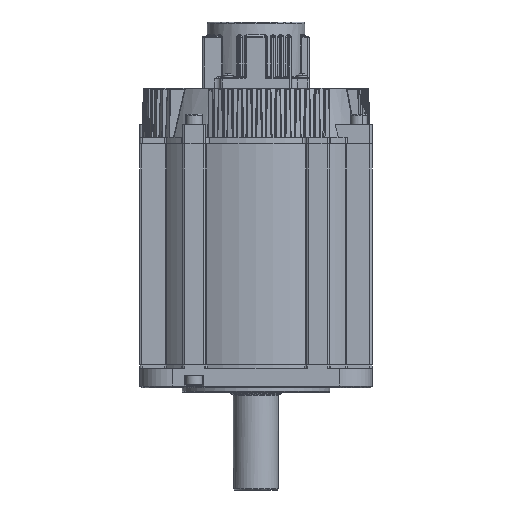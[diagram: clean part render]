
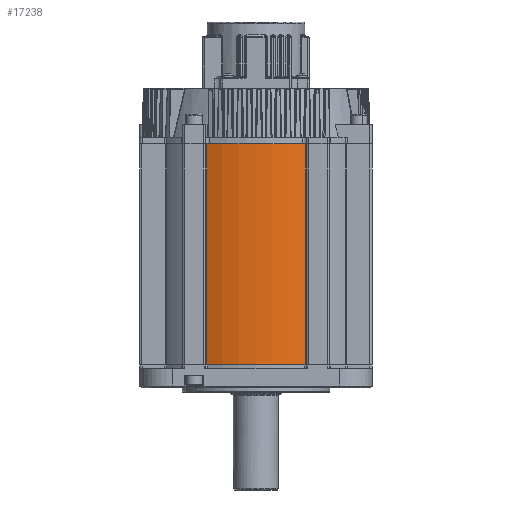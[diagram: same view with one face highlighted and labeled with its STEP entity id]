
A CAD part, front view. The second image highlights one B-rep face of the part: STEP entity #17238.
In plain terms, the highlighted cylindrical face has radius 90 mm (diameter 180 mm), a partial arc.
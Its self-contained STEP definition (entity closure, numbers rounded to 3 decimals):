
#429 = AXIS2_PLACEMENT_3D ( 'NONE', #43288, #27193, #80512 ) ;
#434 = VERTEX_POINT ( 'NONE', #55133 ) ;
#6082 = DIRECTION ( 'NONE',  ( 0., 0., -1. ) ) ;
#7543 = ORIENTED_EDGE ( 'NONE', *, *, #18486, .T. ) ;
#11895 = VERTEX_POINT ( 'NONE', #67250 ) ;
#13132 = EDGE_CURVE ( 'NONE', #11895, #434, #24216, .T. ) ;
#17238 = ADVANCED_FACE ( 'NONE', ( #47801 ), #93437, .T. ) ;
#18486 = EDGE_CURVE ( 'NONE', #71921, #434, #96017, .T. ) ;
#20895 = CARTESIAN_POINT ( 'NONE',  ( 38.287, -81.45, 192. ) ) ;
#21955 = DIRECTION ( 'NONE',  ( -1., 0., 0. ) ) ;
#24216 = LINE ( 'NONE', #20895, #65086 ) ;
#27193 = DIRECTION ( 'NONE',  ( 0., 0., -1. ) ) ;
#39690 = AXIS2_PLACEMENT_3D ( 'NONE', #97748, #51850, #21955 ) ;
#40349 = DIRECTION ( 'NONE',  ( 1., 0., 0. ) ) ;
#40680 = CARTESIAN_POINT ( 'NONE',  ( 0., 0., 192. ) ) ;
#42809 = ORIENTED_EDGE ( 'NONE', *, *, #79069, .F. ) ;
#43288 = CARTESIAN_POINT ( 'NONE',  ( 0., 0., 192. ) ) ;
#45024 = LINE ( 'NONE', #60113, #69045 ) ;
#47801 = FACE_OUTER_BOUND ( 'NONE', #51829, .T. ) ;
#49367 = ORIENTED_EDGE ( 'NONE', *, *, #13132, .F. ) ;
#51829 = EDGE_LOOP ( 'NONE', ( #91225, #7543, #49367, #42809 ) ) ;
#51850 = DIRECTION ( 'NONE',  ( 0., 0., 1. ) ) ;
#52114 = DIRECTION ( 'NONE',  ( 0., 0., -1. ) ) ;
#55133 = CARTESIAN_POINT ( 'NONE',  ( 38.287, -81.45, 21. ) ) ;
#60113 = CARTESIAN_POINT ( 'NONE',  ( -38.287, -81.45, 192. ) ) ;
#65086 = VECTOR ( 'NONE', #52114, 1000. ) ;
#65328 = EDGE_CURVE ( 'NONE', #96722, #71921, #45024, .T. ) ;
#67250 = CARTESIAN_POINT ( 'NONE',  ( 38.287, -81.45, 192. ) ) ;
#69045 = VECTOR ( 'NONE', #6082, 1000. ) ;
#69445 = CARTESIAN_POINT ( 'NONE',  ( -38.287, -81.45, 192. ) ) ;
#71921 = VERTEX_POINT ( 'NONE', #99164 ) ;
#79069 = EDGE_CURVE ( 'NONE', #96722, #11895, #88457, .T. ) ;
#80512 = DIRECTION ( 'NONE',  ( -1., 0., 0. ) ) ;
#88457 = CIRCLE ( 'NONE', #94064, 90. ) ;
#91225 = ORIENTED_EDGE ( 'NONE', *, *, #65328, .T. ) ;
#93437 = CYLINDRICAL_SURFACE ( 'NONE', #429, 90. ) ;
#94064 = AXIS2_PLACEMENT_3D ( 'NONE', #40680, #94687, #40349 ) ;
#94687 = DIRECTION ( 'NONE',  ( 0., 0., 1. ) ) ;
#96017 = CIRCLE ( 'NONE', #39690, 90. ) ;
#96722 = VERTEX_POINT ( 'NONE', #69445 ) ;
#97748 = CARTESIAN_POINT ( 'NONE',  ( 0., 0., 21. ) ) ;
#99164 = CARTESIAN_POINT ( 'NONE',  ( -38.287, -81.45, 21. ) ) ;
